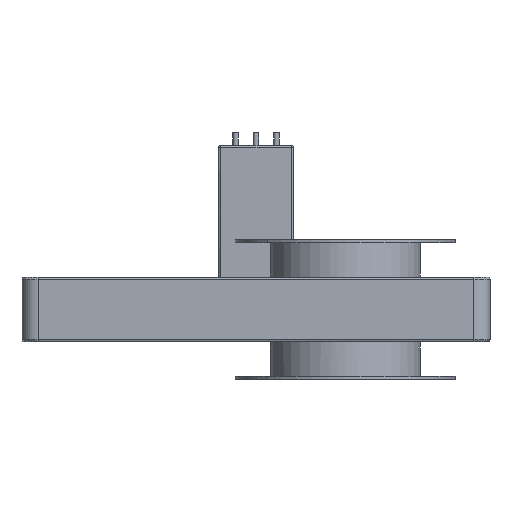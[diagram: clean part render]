
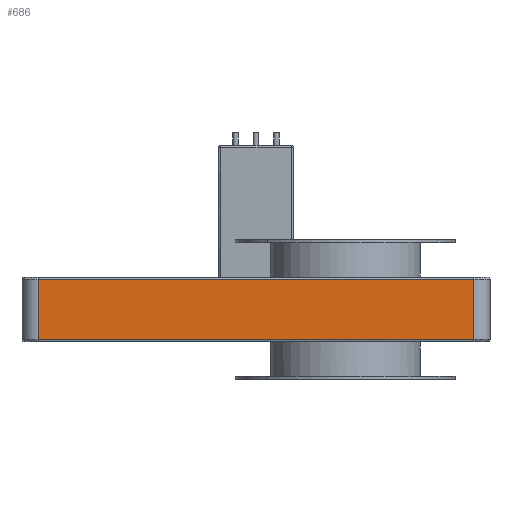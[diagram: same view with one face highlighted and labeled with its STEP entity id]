
A CAD part, front view. The second image highlights one B-rep face of the part: STEP entity #686.
In plain terms, the highlighted free-form (B-spline) face has degree [1, 1] with [2, 2] control points.
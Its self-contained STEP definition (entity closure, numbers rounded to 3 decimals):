
#631=CARTESIAN_POINT('',(-286.776,-108.913,-28.));
#632=VERTEX_POINT('',#631);
#641=CARTESIAN_POINT('',(-286.776,-108.913,28.));
#642=VERTEX_POINT('',#641);
#643=CARTESIAN_POINT('',(-286.776,-108.913,-28.));
#644=CARTESIAN_POINT('',(-286.776,-108.913,28.));
#645=B_SPLINE_CURVE_WITH_KNOTS('',1,(#643,#644),.POLYLINE_FORM.,.F.,.U.,(2,2),(0.033,0.967),.UNSPECIFIED.);
#646=EDGE_CURVE('',#632,#642,#645,.T.);
#659=CARTESIAN_POINT('',(-286.776,-108.913,-30.));
#660=CARTESIAN_POINT('',(-286.776,-108.913,30.));
#661=CARTESIAN_POINT('',(119.855,-108.913,-30.));
#662=CARTESIAN_POINT('',(119.855,-108.913,30.));
#663=B_SPLINE_SURFACE_WITH_KNOTS('',1,1,((#659,#660),(#661,#662)),.PLANE_SURF.,.F.,.F.,.U.,(2,2),(2,2),(0.,1.),(0.,1.),.UNSPECIFIED.);
#664=ORIENTED_EDGE('',*,*,#646,.F.);
#665=CARTESIAN_POINT('',(119.855,-108.913,-28.));
#666=VERTEX_POINT('',#665);
#667=CARTESIAN_POINT('',(-286.776,-108.913,-28.));
#668=CARTESIAN_POINT('',(119.855,-108.913,-28.));
#669=B_SPLINE_CURVE_WITH_KNOTS('',1,(#667,#668),.POLYLINE_FORM.,.F.,.U.,(2,2),(0.,1.),.UNSPECIFIED.);
#670=EDGE_CURVE('',#632,#666,#669,.T.);
#671=ORIENTED_EDGE('',*,*,#670,.T.);
#672=CARTESIAN_POINT('',(119.855,-108.913,28.));
#673=VERTEX_POINT('',#672);
#674=CARTESIAN_POINT('',(119.855,-108.913,-28.));
#675=CARTESIAN_POINT('',(119.855,-108.913,28.));
#676=B_SPLINE_CURVE_WITH_KNOTS('',1,(#674,#675),.POLYLINE_FORM.,.F.,.U.,(2,2),(0.033,0.967),.UNSPECIFIED.);
#677=EDGE_CURVE('',#666,#673,#676,.T.);
#678=ORIENTED_EDGE('',*,*,#677,.T.);
#679=CARTESIAN_POINT('',(-286.776,-108.913,28.));
#680=CARTESIAN_POINT('',(119.855,-108.913,28.));
#681=B_SPLINE_CURVE_WITH_KNOTS('',1,(#679,#680),.POLYLINE_FORM.,.F.,.U.,(2,2),(0.,1.),.UNSPECIFIED.);
#682=EDGE_CURVE('',#642,#673,#681,.T.);
#683=ORIENTED_EDGE('',*,*,#682,.F.);
#684=EDGE_LOOP('',(#664,#671,#678,#683));
#685=FACE_OUTER_BOUND('',#684,.T.);
#686=ADVANCED_FACE('',(#685),#663,.T.);
